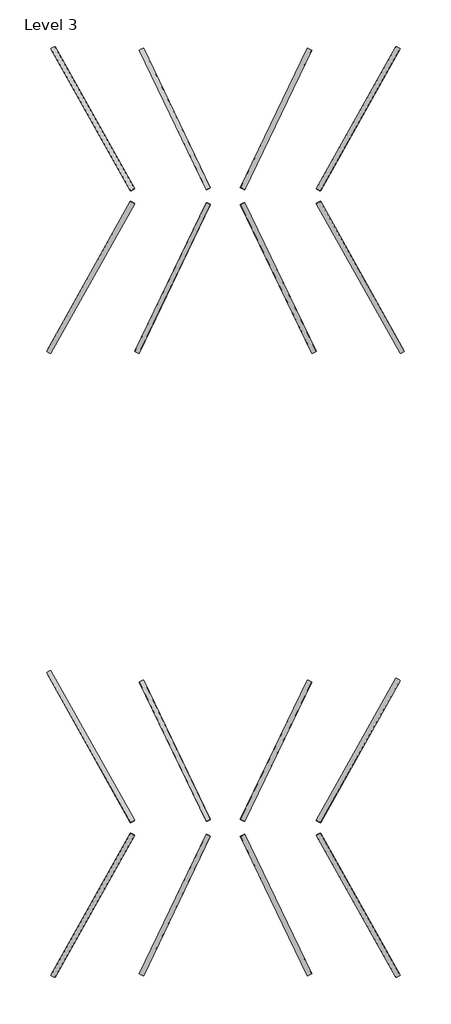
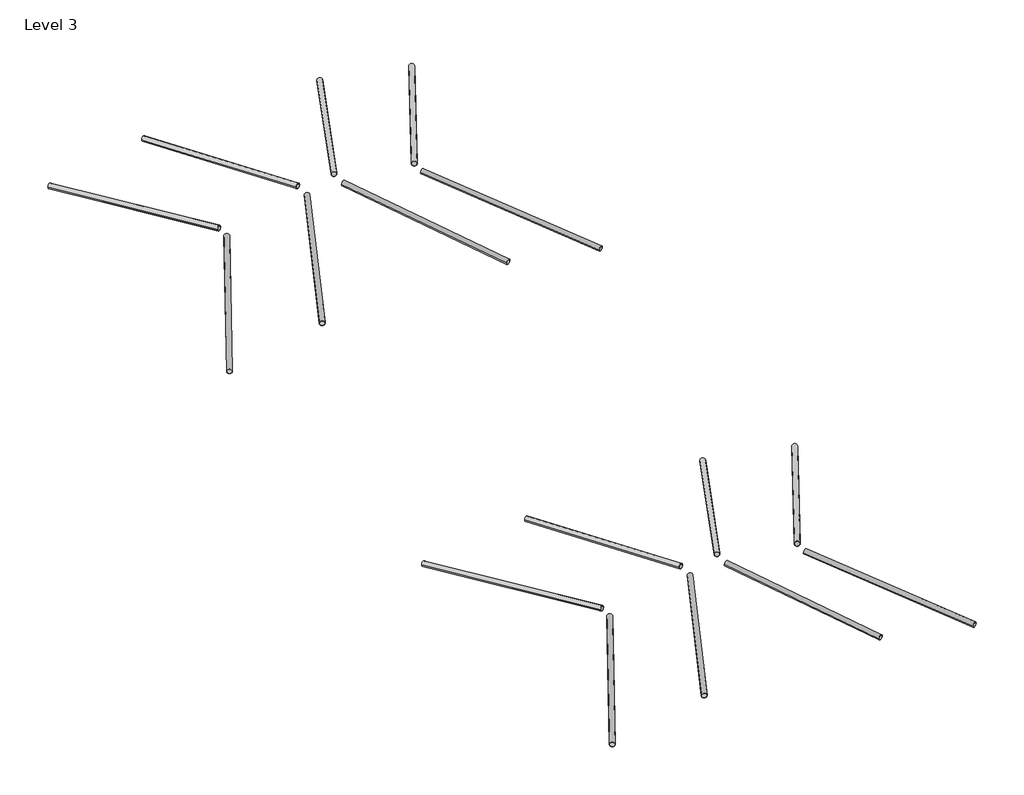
# One storey: 16 members.
"""IFC4 building model written with IfcOpenShell, lengths in millimetres."""

from ifc_helpers import new_model, si_unit, origin, place, context, project, spatial, transform, mapped, element, save
from components import hss_round_hss3x_250_6b2ee398, hss_round_hss3x_250_022b3623, hss_round_hss3x_250_542ee6f0, hss_round_hss3x_250_293a73da, hss_round_hss3x_250_d0182231, hss_round_hss3x_250_2ccc826d, hss_round_hss3x_250_e2de842f, hss_round_hss3x_250_beeb6db1, hss_round_hss3x_250_88736781, hss_round_hss3x_250_e1f9c9cf, hss_round_hss3x_250_60f974ac, hss_round_hss3x_250_178958f6, hss_round_hss3x_250_0314b11b, hss_round_hss3x_250_88dde711

model = new_model("IFC4")

# Units and contexts
model_context = context("Model", 3, world=origin())
ifc_project = project(units=[si_unit("LENGTHUNIT", "METRE", prefix="MILLI")], contexts=[model_context])

# Site, building, storey
site = spatial("IfcSite", under=ifc_project)
building = spatial("IfcBuilding", under=site)
storey = spatial("IfcBuildingStorey", under=building, Name="Level 3", Elevation=4400.0)

# Members
placement = place(None, origin())
hss_round_hss3x_250_shape = hss_round_hss3x_250_6b2ee398(model_context)
element("IfcMember", 1, ObjectType="HSS Round : HSS3X.250", at=placement, inside=storey, context=model_context, shape_type="MappedRepresentation", body=[
    mapped(hss_round_hss3x_250_shape, transform((-10966.8651635, -93.67439, 4054.4548788), x_axis=(-0.48638194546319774, 0.8685002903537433, 0.09560255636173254), y_axis=(-0.8724966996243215, -0.48862000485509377, -2.7283998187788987e-07), z_axis=(0.046713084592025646, -0.08341304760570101, 0.9954195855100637))),
])
hss_round_hss3x_250_2_shape = hss_round_hss3x_250_022b3623(model_context)
element("IfcMember", 2, ObjectType="HSS Round : HSS3X.250", at=placement, inside=storey, context=model_context, shape_type="MappedRepresentation", body=[
    mapped(hss_round_hss3x_250_2_shape, transform((-10966.8651635, 2406.32561, 4053.3830624), x_axis=(-0.486314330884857, -0.8684573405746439, 0.09633389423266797), y_axis=(0.872515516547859, -0.48858640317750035, 3.6464026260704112e-06), z_axis=(0.047064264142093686, 0.08405459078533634, 0.9953490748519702))),
])
hss_round_hss3x_250_3_shape = hss_round_hss3x_250_542ee6f0(model_context)
element("IfcMember", 3, ObjectType="HSS Round : HSS3X.250", at=placement, inside=storey, context=model_context, shape_type="MappedRepresentation", body=[
    mapped(hss_round_hss3x_250_3_shape, transform((-12266.8651635, -93.7117331, 4311.3323956), x_axis=(-0.4310615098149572, 0.8980582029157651, 0.0876209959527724), y_axis=(-0.901525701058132, -0.43272556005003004, -3.3213598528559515e-06), z_axis=(0.03791286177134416, -0.07899401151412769, 0.9961538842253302))),
])
hss_round_hss3x_250_4_shape = hss_round_hss3x_250_293a73da(model_context)
element("IfcMember", 4, ObjectType="HSS Round : HSS3X.250", at=placement, inside=storey, context=model_context, shape_type="MappedRepresentation", body=[
    mapped(hss_round_hss3x_250_4_shape, transform((-12266.8651635, 2406.2882669, 4314.0066809), x_axis=(-0.431143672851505, -0.8982025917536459, 0.0857160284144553), y_axis=(0.9015207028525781, -0.4327359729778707, 4.369145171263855e-06), z_axis=(0.03708848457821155, 0.07727665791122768, 0.996319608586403))),
])
hss_round_hss3x_250_5_shape = hss_round_hss3x_250_d0182231(model_context)
element("IfcMember", 5, ObjectType="HSS Round : HSS3X.250", at=placement, inside=storey, context=model_context, shape_type="MappedRepresentation", body=[
    mapped(hss_round_hss3x_250_5_shape, transform((-10966.8651648, 9906.3251505, 4053.3830629), x_axis=(-0.4863470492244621, 0.8684382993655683, 0.09634037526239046), y_axis=(-0.872496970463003, -0.4886195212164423, -4.369922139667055e-06), z_axis=(0.04706999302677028, -0.0840588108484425, 0.995348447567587))),
])
hss_round_hss3x_250_6_shape = hss_round_hss3x_250_2ccc826d(model_context)
element("IfcMember", 6, ObjectType="HSS Round : HSS3X.250", at=placement, inside=storey, context=model_context, shape_type="MappedRepresentation", body=[
    mapped(hss_round_hss3x_250_6_shape, transform((-10966.8651644, 12406.32561, 4053.3830626), x_axis=(-0.48631433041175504, -0.8684573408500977, 0.09633389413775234), y_axis=(0.8725153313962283, -0.48858673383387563, -2.7485709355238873e-07), z_axis=(0.04706770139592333, 0.08405266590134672, 0.9953490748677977))),
])
hss_round_hss3x_250_7_shape = hss_round_hss3x_250_e2de842f(model_context)
element("IfcMember", 7, ObjectType="HSS Round : HSS3X.250", at=placement, inside=storey, context=model_context, shape_type="MappedRepresentation", body=[
    mapped(hss_round_hss3x_250_7_shape, transform((-12266.8651647, 9906.2854062, 4314.0066781), x_axis=(-0.43113250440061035, 0.8982081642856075, 0.08571381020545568), y_axis=(-0.9015257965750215, -0.4327253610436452, 4.4068008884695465e-06), z_axis=(0.03709449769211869, -0.0772713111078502, 0.9963197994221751))),
])
element("IfcMember", 8, ObjectType="HSS Round : HSS3X.250", at=placement, inside=storey, context=model_context, shape_type="MappedRepresentation", body=[
    mapped(hss_round_hss3x_250_7_shape, transform((-13896.7534374, 9906.2854062, 4314.0066781), x_axis=(0.43113250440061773, 0.8982081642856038, 0.08571381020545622), y_axis=(-0.9015257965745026, 0.43272536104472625, -4.406814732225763e-06), z_axis=(-0.037094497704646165, -0.07727131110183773, 0.996319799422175))),
])
hss_round_hss3x_250_8_shape = hss_round_hss3x_250_beeb6db1(model_context)
element("IfcMember", 9, ObjectType="HSS Round : HSS3X.250", at=placement, inside=storey, context=model_context, shape_type="MappedRepresentation", body=[
    mapped(hss_round_hss3x_250_8_shape, transform((-12266.8651647, 12406.2882669, 4314.0066811), x_axis=(-0.4311436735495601, -0.8982025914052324, 0.08571602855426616), y_axis=(0.9015204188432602, -0.43273656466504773, -3.2504763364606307e-06), z_axis=(0.037095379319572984, 0.0772733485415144, 0.9963196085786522))),
])
element("IfcMember", 10, ObjectType="HSS Round : HSS3X.250", at=placement, inside=storey, context=model_context, shape_type="MappedRepresentation", body=[
    mapped(hss_round_hss3x_250_8_shape, transform((-13896.7534374, 12406.2882669, 4314.0066811), x_axis=(0.43114367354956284, -0.8982025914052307, 0.08571602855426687), y_axis=(0.9015204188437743, 0.43273656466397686, 3.250462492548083e-06), z_axis=(-0.03709537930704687, 0.0772733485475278, 0.996319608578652))),
])
hss_round_hss3x_250_9_shape = hss_round_hss3x_250_88736781(model_context)
element("IfcMember", 11, ObjectType="HSS Round : HSS3X.250", at=placement, inside=storey, context=model_context, shape_type="MappedRepresentation", body=[
    mapped(hss_round_hss3x_250_9_shape, transform((-15196.7534377, -93.67439, 4054.454879), x_axis=(0.4863819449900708, 0.868500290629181, 0.09560255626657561), y_axis=(-0.872496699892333, 0.48862000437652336, 2.7282543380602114e-07), z_axis=(-0.04671308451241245, -0.08341304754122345, 0.9954195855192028))),
])
hss_round_hss3x_250_10_shape = hss_round_hss3x_250_e1f9c9cf(model_context)
element("IfcMember", 12, ObjectType="HSS Round : HSS3X.250", at=placement, inside=storey, context=model_context, shape_type="MappedRepresentation", body=[
    mapped(hss_round_hss3x_250_10_shape, transform((-15196.7534377, 2406.32561, 4054.454879), x_axis=(0.4863490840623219, -0.8685194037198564, 0.09559609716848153), y_axis=(0.8725151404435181, 0.4885870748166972, 4.3464097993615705e-06), z_axis=(-0.0467107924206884, 0.08340692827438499, 0.9954202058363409))),
])
hss_round_hss3x_250_11_shape = hss_round_hss3x_250_60f974ac(model_context)
element("IfcMember", 13, ObjectType="HSS Round : HSS3X.250", at=placement, inside=storey, context=model_context, shape_type="MappedRepresentation", body=[
    mapped(hss_round_hss3x_250_11_shape, transform((-13896.7534374, -93.7117331, 4311.3323958), x_axis=(0.43106151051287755, 0.8980582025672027, 0.08762099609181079), y_axis=(-0.9015257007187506, 0.43272556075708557, 3.3213456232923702e-06), z_axis=(-0.03791286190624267, -0.07899401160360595, 0.9961538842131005))),
])
hss_round_hss3x_250_12_shape = hss_round_hss3x_250_178958f6(model_context)
element("IfcMember", 14, ObjectType="HSS Round : HSS3X.250", at=placement, inside=storey, context=model_context, shape_type="MappedRepresentation", body=[
    mapped(hss_round_hss3x_250_12_shape, transform((-13896.7534374, 2406.2882669, 4314.0066811), x_axis=(0.43114367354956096, -0.8982025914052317, 0.08571602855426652), y_axis=(0.9015207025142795, 0.43273597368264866, -4.369159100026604e-06), z_axis=(-0.03708848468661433, 0.0772766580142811, 0.9963196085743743))),
])
hss_round_hss3x_250_13_shape = hss_round_hss3x_250_0314b11b(model_context)
element("IfcMember", 15, ObjectType="HSS Round : HSS3X.250", at=placement, inside=storey, context=model_context, shape_type="MappedRepresentation", body=[
    mapped(hss_round_hss3x_250_13_shape, transform((-15196.7534377, 9906.3251505, 4053.3830628), x_axis=(0.48634704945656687, 0.8684382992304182, 0.09634037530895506), y_axis=(-0.8724969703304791, 0.4886195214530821, 4.369907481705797e-06), z_axis=(-0.04706999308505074, -0.0840588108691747, 0.9953484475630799))),
])
hss_round_hss3x_250_14_shape = hss_round_hss3x_250_88dde711(model_context)
element("IfcMember", 16, ObjectType="HSS Round : HSS3X.250", at=placement, inside=storey, context=model_context, shape_type="MappedRepresentation", body=[
    mapped(hss_round_hss3x_250_14_shape, transform((-15196.7534377, 12406.3251505, 4053.3830628), x_axis=(0.4863144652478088, -0.8684572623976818, 0.0963339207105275), y_axis=(0.8725152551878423, 0.48858686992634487, 2.673248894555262e-07), z_axis=(-0.04706772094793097, 0.08405268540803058, 0.9953490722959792))),
])

save(model, "model.ifc")
